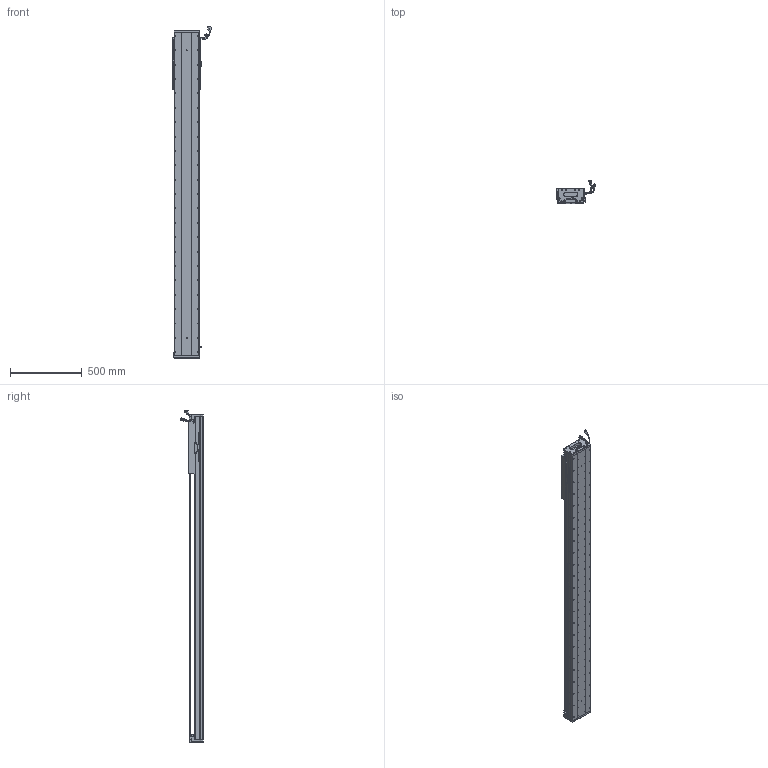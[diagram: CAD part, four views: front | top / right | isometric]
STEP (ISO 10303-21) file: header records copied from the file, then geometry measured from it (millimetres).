
FILE_DESCRIPTION (( 'STEP AP203' ), '1' );
FILE_NAME ('Z5-RY170D-1-L500-B-K.SLDASM_1800.step', '2021-05-18T00:41:47', ( '盈信电脑' ), ( '东莞市道滘镇水果街19号' ), 'SwSTEP 2.0', 'SolidWorks 2016', '' );
FILE_SCHEMA (( 'CONFIG_CONTROL_DESIGN' ));
Length unit declared in the file: millimetre
Products named in the file (36): HARNESS-Part-1; HARNESS; Z5-RY170-L500耀郪菁釱_1800; RY170直线电机感应器672光电感应片; 覜茼ん672; Z-170詩湍傷裔啣; Z5-RY170-L500詩湍145mm遵_1800; PBU_SHEET; LABEL; COVER; SCREW-M1.6-2; 140雄赽晤鎢ん堤盄; SCREW-M1.6-1; SEAL-Part-1; Z-RY170詩湍狟揤裔; 榋妏寠巭燃_暯_M2_2; HOLDER0; SCREW-M1.6; SEAL; SCREW-M1.7-1; Z5-RY170臏賑輸(21遴); 080黍杅芛假蚾釱21遴; COVER-Part-1; SHIELDPLATE; LABEL-Part-1; 140蚥薯蝶輸; SCALE-Part-1; SCALE; Z5-RY170D-1-L500-B-K.SLDASM_1800; HARNESS-Part-2; SCREW-M1.7; 170-Z-臏賑輸盄裔(21遴); PSLH080_PSLF2; SCALE-Part-2; SCREW-M1.6-3; Z-RY170詩湍奻揤裔
Assembly tree (41 placements, depth 4):
  Z5-RY170D-1-L500-B-K.SLDASM_1800
    Z5-RY170-L500耀郪菁釱_1800
    RY170直线电机感应器672光电感应片
    Z5-RY170臏賑輸(21遴)
    覜茼ん672  x3
    PSLH080_PSLF2
      SCALE
        SCALE-Part-1
        SCALE-Part-2
      HARNESS
        HARNESS-Part-1
        HARNESS-Part-2
      LABEL
        LABEL-Part-1
      COVER
        COVER-Part-1
      SEAL
        SEAL-Part-1
      榋妏寠巭燃_暯_M2_2
      SHIELDPLATE
      SCREW-M1.7
      SCREW-M1.7-1
      PBU_SHEET
      SCREW-M1.6
      SCREW-M1.6-1
      SCREW-M1.6-2
      SCREW-M1.6-3
      HOLDER0
    080黍杅芛假蚾釱21遴
    Z5-RY170-L500詩湍145mm遵_1800
    Z-170詩湍傷裔啣  x2
    Z-RY170詩湍奻揤裔  x2
    Z-RY170詩湍狟揤裔  x2
    140蚥薯蝶輸  x2
    170-Z-臏賑輸盄裔(21遴)
    140雄赽晤鎢ん堤盄
Bounding box: 275.34 x 158.11 x 2308.72 mm (x, y, z)
Volume: 12266744 mm3; surface area: 2949727.1 mm2
Topology: 36 solids, 36 shells, 3982 faces, 10979 edges, 6871 vertices
Faces by surface type: cylinder 1998, plane 1310, cone 552, torus 69, bspline 53
Entity records: 124407 total; most frequent: CARTESIAN_POINT 34186, ORIENTED_EDGE 18474, DIRECTION 17417, EDGE_CURVE 9237, AXIS2_PLACEMENT_3D 6440, VERTEX_POINT 5989, VECTOR 4537, LINE 4537
